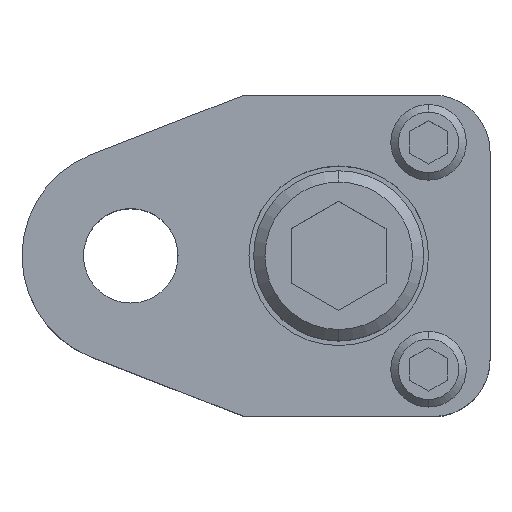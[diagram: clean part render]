
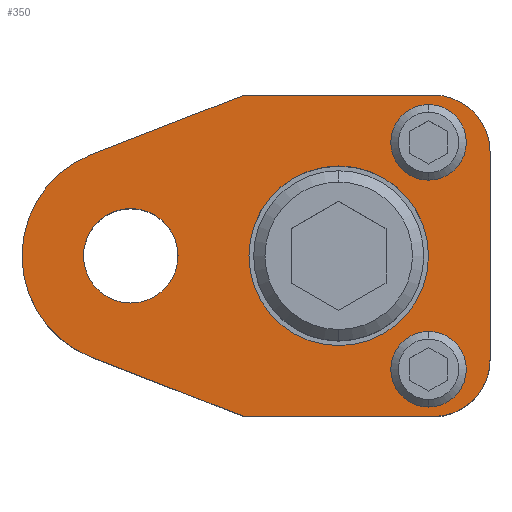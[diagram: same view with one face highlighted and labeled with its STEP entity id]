
A CAD part, top view. The second image highlights one B-rep face of the part: STEP entity #350.
In plain terms, the highlighted planar face has unit normal (0, 0, 1).
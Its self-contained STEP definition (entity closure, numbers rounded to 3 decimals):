
#177=FACE_BOUND('',#611,.T.);
#178=FACE_BOUND('',#612,.T.);
#179=FACE_BOUND('',#613,.T.);
#180=FACE_BOUND('',#614,.T.);
#181=FACE_BOUND('',#615,.T.);
#220=CIRCLE('',#1916,6.);
#223=CIRCLE('',#1922,6.);
#225=CIRCLE('',#1927,11.5);
#227=CIRCLE('',#1931,4.);
#229=CIRCLE('',#1934,4.);
#231=CIRCLE('',#1937,4.);
#233=CIRCLE('',#1940,4.);
#238=CIRCLE('',#1948,9.5);
#239=CIRCLE('',#1949,9.5);
#240=CIRCLE('',#1950,5.);
#241=CIRCLE('',#1951,5.);
#350=ADVANCED_FACE('',(#177,#178,#179,#180,#181),#440,.T.);
#440=PLANE('',#1952);
#611=EDGE_LOOP('',(#888,#889,#890,#891,#892,#893,#894,#895));
#612=EDGE_LOOP('',(#896,#897));
#613=EDGE_LOOP('',(#898,#899));
#614=EDGE_LOOP('',(#900,#901));
#615=EDGE_LOOP('',(#902,#903));
#888=ORIENTED_EDGE('',*,*,#1407,.T.);
#889=ORIENTED_EDGE('',*,*,#1411,.T.);
#890=ORIENTED_EDGE('',*,*,#1414,.T.);
#891=ORIENTED_EDGE('',*,*,#1425,.T.);
#892=ORIENTED_EDGE('',*,*,#1433,.T.);
#893=ORIENTED_EDGE('',*,*,#1430,.T.);
#894=ORIENTED_EDGE('',*,*,#1417,.T.);
#895=ORIENTED_EDGE('',*,*,#1421,.T.);
#896=ORIENTED_EDGE('',*,*,#1457,.F.);
#897=ORIENTED_EDGE('',*,*,#1458,.F.);
#898=ORIENTED_EDGE('',*,*,#1450,.F.);
#899=ORIENTED_EDGE('',*,*,#1447,.F.);
#900=ORIENTED_EDGE('',*,*,#1444,.F.);
#901=ORIENTED_EDGE('',*,*,#1441,.F.);
#902=ORIENTED_EDGE('',*,*,#1459,.T.);
#903=ORIENTED_EDGE('',*,*,#1460,.T.);
#1226=VERTEX_POINT('',#2784);
#1227=VERTEX_POINT('',#2786);
#1230=VERTEX_POINT('',#2793);
#1232=VERTEX_POINT('',#2799);
#1234=VERTEX_POINT('',#2805);
#1235=VERTEX_POINT('',#2807);
#1240=VERTEX_POINT('',#2821);
#1244=VERTEX_POINT('',#2832);
#1250=VERTEX_POINT('',#2856);
#1251=VERTEX_POINT('',#2858);
#1254=VERTEX_POINT('',#2868);
#1255=VERTEX_POINT('',#2870);
#1260=VERTEX_POINT('',#2889);
#1261=VERTEX_POINT('',#2890);
#1262=VERTEX_POINT('',#2893);
#1263=VERTEX_POINT('',#2894);
#1407=EDGE_CURVE('',#1227,#1226,#1637,.T.);
#1411=EDGE_CURVE('',#1226,#1230,#220,.T.);
#1414=EDGE_CURVE('',#1230,#1232,#1642,.T.);
#1417=EDGE_CURVE('',#1235,#1234,#1645,.T.);
#1421=EDGE_CURVE('',#1234,#1227,#223,.T.);
#1425=EDGE_CURVE('',#1232,#1240,#1651,.T.);
#1430=EDGE_CURVE('',#1244,#1235,#1656,.T.);
#1433=EDGE_CURVE('',#1240,#1244,#225,.T.);
#1441=EDGE_CURVE('',#1250,#1251,#227,.T.);
#1444=EDGE_CURVE('',#1251,#1250,#229,.T.);
#1447=EDGE_CURVE('',#1254,#1255,#231,.T.);
#1450=EDGE_CURVE('',#1255,#1254,#233,.T.);
#1457=EDGE_CURVE('',#1260,#1261,#238,.T.);
#1458=EDGE_CURVE('',#1261,#1260,#239,.T.);
#1459=EDGE_CURVE('',#1262,#1263,#240,.T.);
#1460=EDGE_CURVE('',#1263,#1262,#241,.T.);
#1637=LINE('',#2785,#1777);
#1642=LINE('',#2800,#1782);
#1645=LINE('',#2806,#1785);
#1651=LINE('',#2822,#1791);
#1656=LINE('',#2831,#1796);
#1777=VECTOR('',#2224,1.);
#1782=VECTOR('',#2237,1.);
#1785=VECTOR('',#2242,1.);
#1791=VECTOR('',#2256,1.);
#1796=VECTOR('',#2263,1.);
#1916=AXIS2_PLACEMENT_3D('',#2794,#2230,#2231);
#1922=AXIS2_PLACEMENT_3D('',#2813,#2249,#2250);
#1927=AXIS2_PLACEMENT_3D('',#2836,#2269,#2270);
#1931=AXIS2_PLACEMENT_3D('',#2857,#2282,#2283);
#1934=AXIS2_PLACEMENT_3D('',#2862,#2289,#2290);
#1937=AXIS2_PLACEMENT_3D('',#2869,#2296,#2297);
#1940=AXIS2_PLACEMENT_3D('',#2874,#2303,#2304);
#1948=AXIS2_PLACEMENT_3D('',#2888,#2321,#2322);
#1949=AXIS2_PLACEMENT_3D('',#2891,#2323,#2324);
#1950=AXIS2_PLACEMENT_3D('',#2892,#2325,#2326);
#1951=AXIS2_PLACEMENT_3D('',#2895,#2327,#2328);
#1952=AXIS2_PLACEMENT_3D('',#2896,#2329,#2330);
#2224=DIRECTION('',(0.,1.,0.));
#2230=DIRECTION('',(0.,0.,1.));
#2231=DIRECTION('',(-0.707,-0.707,0.));
#2237=DIRECTION('',(-1.,0.,0.));
#2242=DIRECTION('',(1.,0.,0.));
#2249=DIRECTION('',(0.,0.,1.));
#2250=DIRECTION('',(-0.707,0.707,0.));
#2256=DIRECTION('',(-0.932,-0.362,0.));
#2263=DIRECTION('',(0.932,-0.362,0.));
#2269=DIRECTION('',(0.,0.,1.));
#2270=DIRECTION('',(0.,1.,0.));
#2282=DIRECTION('',(0.,0.,1.));
#2283=DIRECTION('',(1.,0.,0.));
#2289=DIRECTION('',(0.,0.,1.));
#2290=DIRECTION('',(-1.,0.,0.));
#2296=DIRECTION('',(0.,0.,1.));
#2297=DIRECTION('',(1.,0.,0.));
#2303=DIRECTION('',(0.,0.,1.));
#2304=DIRECTION('',(-1.,0.,0.));
#2321=DIRECTION('',(0.,0.,1.));
#2322=DIRECTION('',(1.,0.,0.));
#2323=DIRECTION('',(0.,0.,1.));
#2324=DIRECTION('',(-1.,0.,0.));
#2325=DIRECTION('',(0.,0.,-1.));
#2326=DIRECTION('',(-1.,0.,0.));
#2327=DIRECTION('',(0.,0.,-1.));
#2328=DIRECTION('',(1.,0.,0.));
#2329=DIRECTION('',(0.,0.,1.));
#2330=DIRECTION('',(0.,-1.,0.));
#2784=CARTESIAN_POINT('',(38.,11.,25.));
#2785=CARTESIAN_POINT('',(38.,-11.,25.));
#2786=CARTESIAN_POINT('',(38.,-11.,25.));
#2793=CARTESIAN_POINT('',(32.,17.,25.));
#2794=CARTESIAN_POINT('',(32.,11.,25.));
#2799=CARTESIAN_POINT('',(12.,17.,25.));
#2800=CARTESIAN_POINT('',(12.,17.,25.));
#2805=CARTESIAN_POINT('',(32.,-17.,25.));
#2806=CARTESIAN_POINT('',(12.,-17.,25.));
#2807=CARTESIAN_POINT('',(12.,-17.,25.));
#2813=CARTESIAN_POINT('',(32.,-11.,25.));
#2821=CARTESIAN_POINT('',(-4.165,10.719,25.));
#2822=CARTESIAN_POINT('',(12.,17.,25.));
#2831=CARTESIAN_POINT('',(12.,-17.,25.));
#2832=CARTESIAN_POINT('',(-4.165,-10.719,25.));
#2836=CARTESIAN_POINT('',(0.,0.,25.));
#2856=CARTESIAN_POINT('',(31.5,16.,25.));
#2857=CARTESIAN_POINT('',(31.5,12.,25.));
#2858=CARTESIAN_POINT('',(31.5,8.,25.));
#2862=CARTESIAN_POINT('',(31.5,12.,25.));
#2868=CARTESIAN_POINT('',(31.5,-8.,25.));
#2869=CARTESIAN_POINT('',(31.5,-12.,25.));
#2870=CARTESIAN_POINT('',(31.5,-16.,25.));
#2874=CARTESIAN_POINT('',(31.5,-12.,25.));
#2888=CARTESIAN_POINT('',(22.,0.,25.));
#2889=CARTESIAN_POINT('',(22.,9.5,25.));
#2890=CARTESIAN_POINT('',(22.,-9.5,25.));
#2891=CARTESIAN_POINT('',(22.,0.,25.));
#2892=CARTESIAN_POINT('',(0.,0.,25.));
#2893=CARTESIAN_POINT('',(0.,5.,25.));
#2894=CARTESIAN_POINT('',(0.,-5.,25.));
#2895=CARTESIAN_POINT('',(0.,0.,25.));
#2896=CARTESIAN_POINT('',(38.,-11.,25.));
